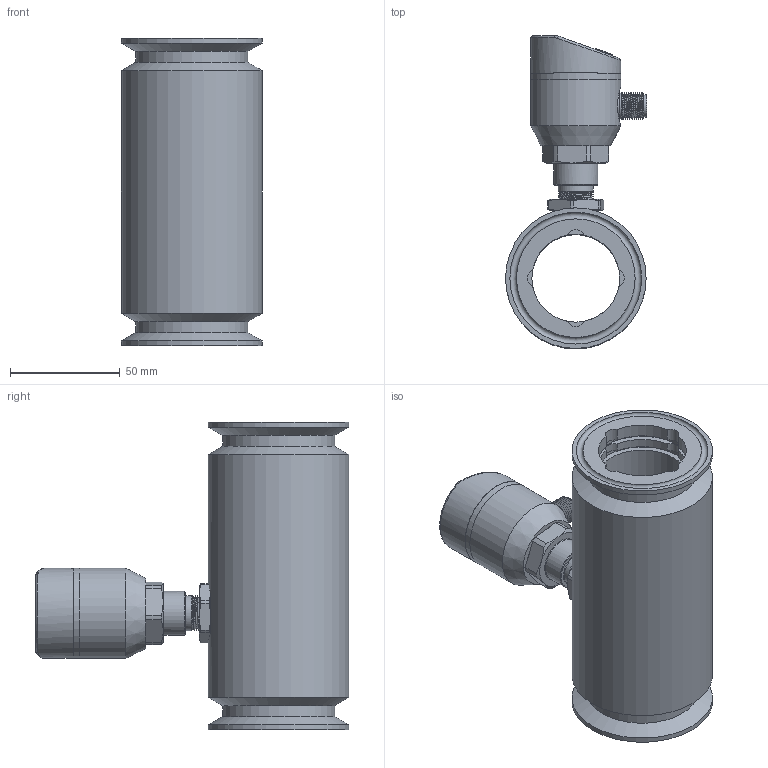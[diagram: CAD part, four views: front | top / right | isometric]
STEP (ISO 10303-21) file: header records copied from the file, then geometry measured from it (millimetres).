
FILE_DESCRIPTION( (''), '2;1');
FILE_NAME( 'QTKA_DN40_tri-clamp.step', '2024-01-11T14:26:52+08:00', (''), (''), '', '', '');
FILE_SCHEMA (('AUTOMOTIVE_DESIGN { 1 0 10303 214 3 1 1 1 }'));
Length unit declared in the file: millimetre
Products named in the file (1): QTKA DN40_tri-clamp
Bounding box: 64.18 x 142.8 x 140 mm (x, y, z)
Volume: 282336.8 mm3; surface area: 80563.8 mm2
Topology: 5 solids, 7 shells, 477 faces, 1156 edges, 737 vertices
Faces by surface type: cylinder 178, plane 157, cone 53, bspline 42, torus 41, sphere 6
Full cylindrical faces by diameter (mm): 1 x5, 2.7 x4, 8.4 x1, 9.7 x1, 9.8 x1, 10.1 x1, 11.6 x1, 12 x1, 15.9 x1, 16.5 x1, 20 x1, 23 x3, 26 x4, 26.1 x1, 37 x1, 40 x1, 41 x3, 45 x4, 51 x2, 64 x3
Entity records: 31223 total; most frequent: CARTESIAN_POINT 19197, DIRECTION 2180, ORIENTED_EDGE 2094, EDGE_CURVE 1047, AXIS2_PLACEMENT_3D 885, VERTEX_POINT 694, EDGE_LOOP 593, ADVANCED_FACE 475
